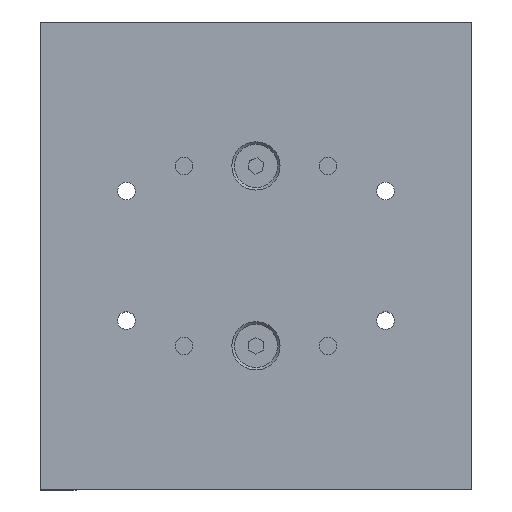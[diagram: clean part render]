
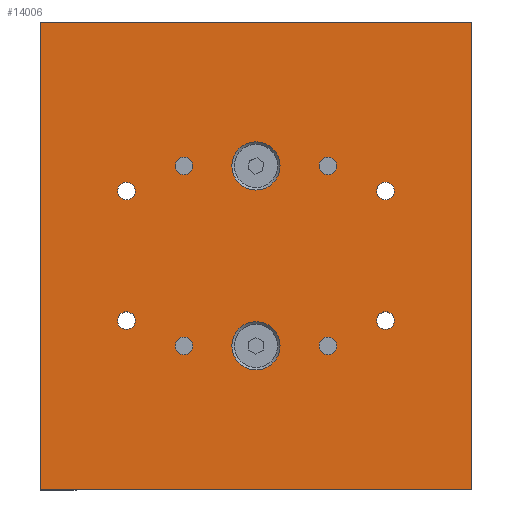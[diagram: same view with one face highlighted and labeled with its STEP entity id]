
A CAD part, top view. The second image highlights one B-rep face of the part: STEP entity #14006.
In plain terms, the highlighted planar face has unit normal (0, 0, 1) as drawn and (0, 1, 0) by its records, which use the part's own axes.
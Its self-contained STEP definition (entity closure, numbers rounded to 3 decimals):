
#369=FACE_BOUND('',#1770,.T.);
#370=FACE_BOUND('',#1771,.T.);
#371=FACE_BOUND('',#1772,.T.);
#372=FACE_BOUND('',#1773,.T.);
#373=FACE_BOUND('',#1774,.T.);
#374=FACE_BOUND('',#1775,.T.);
#375=FACE_BOUND('',#1776,.T.);
#376=FACE_BOUND('',#1777,.T.);
#377=FACE_BOUND('',#1778,.T.);
#378=FACE_BOUND('',#1779,.T.);
#653=CIRCLE('',#15124,1.23);
#655=CIRCLE('',#15127,1.23);
#657=CIRCLE('',#15130,1.23);
#659=CIRCLE('',#15133,1.23);
#661=CIRCLE('',#15136,1.23);
#663=CIRCLE('',#15139,1.23);
#665=CIRCLE('',#15142,1.23);
#667=CIRCLE('',#15145,1.23);
#669=CIRCLE('',#15148,3.35);
#672=CIRCLE('',#15153,3.35);
#1007=FACE_OUTER_BOUND('',#1769,.T.);
#1769=EDGE_LOOP('',(#10224,#10225,#10226,#10227));
#1770=EDGE_LOOP('',(#10228));
#1771=EDGE_LOOP('',(#10229));
#1772=EDGE_LOOP('',(#10230));
#1773=EDGE_LOOP('',(#10231));
#1774=EDGE_LOOP('',(#10232));
#1775=EDGE_LOOP('',(#10233));
#1776=EDGE_LOOP('',(#10234));
#1777=EDGE_LOOP('',(#10235));
#1778=EDGE_LOOP('',(#10236));
#1779=EDGE_LOOP('',(#10237));
#2809=LINE('',#20738,#4376);
#2822=LINE('',#20763,#4389);
#2823=LINE('',#20766,#4390);
#2824=LINE('',#20767,#4391);
#4376=VECTOR('',#17266,10.);
#4389=VECTOR('',#17283,10.);
#4390=VECTOR('',#17286,10.);
#4391=VECTOR('',#17287,10.);
#5886=VERTEX_POINT('',#20662);
#5888=VERTEX_POINT('',#20668);
#5890=VERTEX_POINT('',#20674);
#5892=VERTEX_POINT('',#20680);
#5894=VERTEX_POINT('',#20686);
#5896=VERTEX_POINT('',#20692);
#5898=VERTEX_POINT('',#20698);
#5900=VERTEX_POINT('',#20704);
#5902=VERTEX_POINT('',#20710);
#5905=VERTEX_POINT('',#20720);
#5911=VERTEX_POINT('',#20735);
#5912=VERTEX_POINT('',#20737);
#5922=VERTEX_POINT('',#20761);
#5923=VERTEX_POINT('',#20765);
#7436=EDGE_CURVE('',#5886,#5886,#653,.T.);
#7439=EDGE_CURVE('',#5888,#5888,#655,.T.);
#7442=EDGE_CURVE('',#5890,#5890,#657,.T.);
#7445=EDGE_CURVE('',#5892,#5892,#659,.T.);
#7448=EDGE_CURVE('',#5894,#5894,#661,.T.);
#7451=EDGE_CURVE('',#5896,#5896,#663,.T.);
#7454=EDGE_CURVE('',#5898,#5898,#665,.T.);
#7457=EDGE_CURVE('',#5900,#5900,#667,.T.);
#7460=EDGE_CURVE('',#5902,#5902,#669,.T.);
#7465=EDGE_CURVE('',#5905,#5905,#672,.T.);
#7473=EDGE_CURVE('',#5911,#5912,#2809,.T.);
#7486=EDGE_CURVE('',#5911,#5922,#2822,.T.);
#7487=EDGE_CURVE('',#5923,#5922,#2823,.T.);
#7488=EDGE_CURVE('',#5912,#5923,#2824,.T.);
#10224=ORIENTED_EDGE('',*,*,#7486,.T.);
#10225=ORIENTED_EDGE('',*,*,#7487,.F.);
#10226=ORIENTED_EDGE('',*,*,#7488,.F.);
#10227=ORIENTED_EDGE('',*,*,#7473,.F.);
#10228=ORIENTED_EDGE('',*,*,#7436,.T.);
#10229=ORIENTED_EDGE('',*,*,#7439,.T.);
#10230=ORIENTED_EDGE('',*,*,#7442,.T.);
#10231=ORIENTED_EDGE('',*,*,#7445,.T.);
#10232=ORIENTED_EDGE('',*,*,#7448,.T.);
#10233=ORIENTED_EDGE('',*,*,#7451,.T.);
#10234=ORIENTED_EDGE('',*,*,#7454,.T.);
#10235=ORIENTED_EDGE('',*,*,#7457,.T.);
#10236=ORIENTED_EDGE('',*,*,#7460,.T.);
#10237=ORIENTED_EDGE('',*,*,#7465,.T.);
#12662=PLANE('',#15160);
#14006=ADVANCED_FACE('',(#1007,#369,#370,#371,#372,#373,#374,#375,#376,
#377,#378),#12662,.T.);
#15124=AXIS2_PLACEMENT_3D('',#20663,#17183,#17184);
#15127=AXIS2_PLACEMENT_3D('',#20669,#17190,#17191);
#15130=AXIS2_PLACEMENT_3D('',#20675,#17197,#17198);
#15133=AXIS2_PLACEMENT_3D('',#20681,#17204,#17205);
#15136=AXIS2_PLACEMENT_3D('',#20687,#17211,#17212);
#15139=AXIS2_PLACEMENT_3D('',#20693,#17218,#17219);
#15142=AXIS2_PLACEMENT_3D('',#20699,#17225,#17226);
#15145=AXIS2_PLACEMENT_3D('',#20705,#17232,#17233);
#15148=AXIS2_PLACEMENT_3D('',#20711,#17239,#17240);
#15153=AXIS2_PLACEMENT_3D('',#20721,#17251,#17252);
#15160=AXIS2_PLACEMENT_3D('',#20764,#17284,#17285);
#17183=DIRECTION('center_axis',(0.,-1.,0.));
#17184=DIRECTION('ref_axis',(1.,0.,0.));
#17190=DIRECTION('center_axis',(0.,-1.,0.));
#17191=DIRECTION('ref_axis',(1.,0.,0.));
#17197=DIRECTION('center_axis',(0.,-1.,0.));
#17198=DIRECTION('ref_axis',(1.,0.,0.));
#17204=DIRECTION('center_axis',(0.,-1.,0.));
#17205=DIRECTION('ref_axis',(1.,0.,0.));
#17211=DIRECTION('center_axis',(0.,-1.,0.));
#17212=DIRECTION('ref_axis',(1.,0.,0.));
#17218=DIRECTION('center_axis',(0.,-1.,0.));
#17219=DIRECTION('ref_axis',(1.,0.,0.));
#17225=DIRECTION('center_axis',(0.,-1.,0.));
#17226=DIRECTION('ref_axis',(1.,0.,0.));
#17232=DIRECTION('center_axis',(0.,-1.,0.));
#17233=DIRECTION('ref_axis',(1.,0.,0.));
#17239=DIRECTION('center_axis',(0.,-1.,0.));
#17240=DIRECTION('ref_axis',(1.,0.,0.));
#17251=DIRECTION('center_axis',(0.,-1.,0.));
#17252=DIRECTION('ref_axis',(1.,0.,0.));
#17266=DIRECTION('',(1.,0.,0.));
#17283=DIRECTION('',(0.,0.,1.));
#17284=DIRECTION('center_axis',(0.,1.,0.));
#17285=DIRECTION('ref_axis',(-1.,0.,0.));
#17286=DIRECTION('',(-1.,0.,0.));
#17287=DIRECTION('',(0.,0.,1.));
#20662=CARTESIAN_POINT('',(46.771,16.,9.));
#20663=CARTESIAN_POINT('Origin',(48.,16.,9.));
#20668=CARTESIAN_POINT('',(10.771,16.,9.));
#20669=CARTESIAN_POINT('Origin',(12.,16.,9.));
#20674=CARTESIAN_POINT('',(10.771,16.,-9.));
#20675=CARTESIAN_POINT('Origin',(12.,16.,-9.));
#20680=CARTESIAN_POINT('',(46.771,16.,-9.));
#20681=CARTESIAN_POINT('Origin',(48.,16.,-9.));
#20686=CARTESIAN_POINT('',(38.771,16.,-12.5));
#20687=CARTESIAN_POINT('Origin',(40.,16.,-12.5));
#20692=CARTESIAN_POINT('',(18.771,16.,12.5));
#20693=CARTESIAN_POINT('Origin',(20.,16.,12.5));
#20698=CARTESIAN_POINT('',(18.771,16.,-12.5));
#20699=CARTESIAN_POINT('Origin',(20.,16.,-12.5));
#20704=CARTESIAN_POINT('',(38.771,16.,12.5));
#20705=CARTESIAN_POINT('Origin',(40.,16.,12.5));
#20710=CARTESIAN_POINT('',(26.65,16.,12.5));
#20711=CARTESIAN_POINT('Origin',(30.,16.,12.5));
#20720=CARTESIAN_POINT('',(26.65,16.,-12.5));
#20721=CARTESIAN_POINT('Origin',(30.,16.,-12.5));
#20735=CARTESIAN_POINT('',(0.,16.,-32.5));
#20737=CARTESIAN_POINT('',(60.,16.,-32.5));
#20738=CARTESIAN_POINT('',(60.,16.,-32.5));
#20761=CARTESIAN_POINT('',(0.,16.,32.5));
#20763=CARTESIAN_POINT('',(0.,16.,0.));
#20764=CARTESIAN_POINT('Origin',(60.,16.,0.));
#20765=CARTESIAN_POINT('',(60.,16.,32.5));
#20766=CARTESIAN_POINT('',(60.,16.,32.5));
#20767=CARTESIAN_POINT('',(60.,16.,0.));
